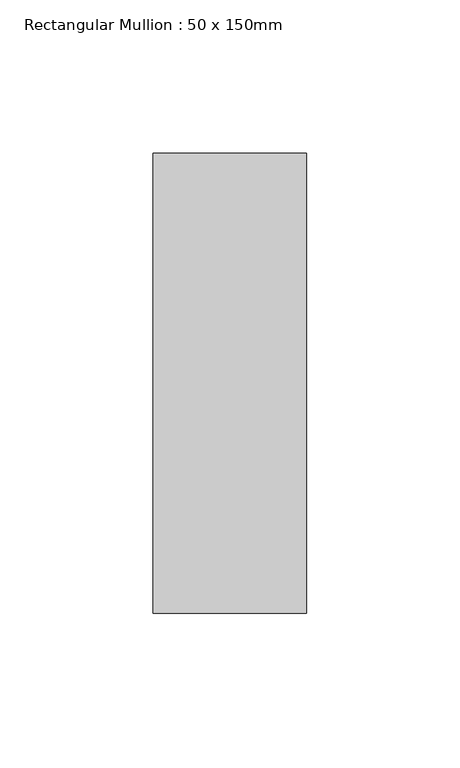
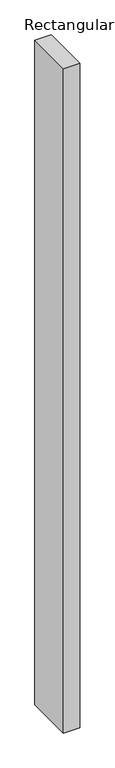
"""IFC4 building model written with IfcOpenShell, lengths in millimetres: member geometry, Rectangular Mullion : 50 x 150mm."""

import ifcopenshell
import ifcopenshell.guid

model = None  # the IFC model being written
_history = None  # IfcOwnerHistory: only IFC2X3 demands one
_inside = {}  # id of a spatial element -> (the spatial element, [elements in it])
_under = {}  # id of a project, library or spatial element -> (it, [spatial elements below it])
_declared = {}  # id of a project -> (the project, [libraries it declares])
_typed = {}  # id of a type object -> (the type object, [elements of that type])
_made_of = {}  # id of a material, layer set ... -> (it, [elements and type objects made of it])


def new_model(schema):
    """Start an empty IFC model of exactly this schema.

    Asked for "IFC4X3", IfcOpenShell would pick the latest addendum, in which some entities
    have other attributes; the version numbers below select the first issue.
    IFC2X3 requires an IfcOwnerHistory on every rooted entity: one is made here for all.
    """
    global model, _history
    if schema == "IFC4X3":
        model = ifcopenshell.file(schema_version=(4, 3, 0, 0))
    else:
        model = ifcopenshell.file(schema=schema)
    _inside.clear()
    _under.clear()
    _declared.clear()
    _typed.clear()
    _made_of.clear()
    _history = None
    if model.schema == "IFC2X3":
        org = make("IfcOrganization", Name="unknown")
        user = make(
            "IfcPersonAndOrganization",
            ThePerson=make("IfcPerson", FamilyName="unknown"),
            TheOrganization=org,
        )
        app = make(
            "IfcApplication",
            ApplicationDeveloper=org,
            Version="unknown",
            ApplicationFullName="unknown",
            ApplicationIdentifier="unknown",
        )
        _history = make(
            "IfcOwnerHistory",
            OwningUser=user,
            OwningApplication=app,
            ChangeAction="ADDED",
            CreationDate=0,
        )
    return model


def make(cls, **values):
    """One entity of the class cls with the attributes given. An attribute that is None is left unset."""
    return model.create_entity(
        cls, **{name: value for name, value in values.items() if value is not None}
    )


def rooted(cls, **values):
    """An entity with a GlobalId (a new one), such as an element, a storey or a relation."""
    return make(cls, GlobalId=ifcopenshell.guid.new(), OwnerHistory=_history, **values)


def si_unit(unit_type, name, prefix=None):
    """IfcSIUnit, for example si_unit("LENGTHUNIT", "METRE", prefix="MILLI")."""
    return make("IfcSIUnit", UnitType=unit_type, Prefix=prefix, Name=name)


def assignment(units):
    """IfcUnitAssignment: the units of a project."""
    return None if units is None else make("IfcUnitAssignment", Units=units)


def point(xyz):
    """IfcCartesianPoint."""
    return None if xyz is None else make("IfcCartesianPoint", Coordinates=xyz)


def direction(xyz):
    """IfcDirection."""
    return None if xyz is None else make("IfcDirection", DirectionRatios=xyz)


def frame(location, z_axis=None, x_axis=None):
    """IfcAxis2Placement3D, a coordinate frame: its origin and axes. An axis left out is left unset."""
    return make(
        "IfcAxis2Placement3D",
        Location=point(location),
        Axis=direction(z_axis),
        RefDirection=direction(x_axis),
    )


def origin():
    """The frame at (0, 0, 0) with its axes left unset."""
    return frame((0.0, 0.0, 0.0))


def place(relative_to, where):
    """IfcLocalPlacement: puts the frame where relative to a parent placement (None: the world)."""
    return make(
        "IfcLocalPlacement", PlacementRelTo=relative_to, RelativePlacement=where
    )


def context(
    kind, dimensions, precision=None, world=None, true_north=None, identifier=None
):
    """IfcGeometricRepresentationContext, for example the 3D "Model" context."""
    return make(
        "IfcGeometricRepresentationContext",
        ContextIdentifier=identifier,
        ContextType=kind,
        CoordinateSpaceDimension=dimensions,
        Precision=precision,
        WorldCoordinateSystem=world,
        TrueNorth=true_north,
    )


def project(units=None, contexts=None):
    """IfcProject with its units and contexts."""
    return rooted(
        "IfcProject",
        Name="project",
        RepresentationContexts=contexts,
        UnitsInContext=assignment(units),
    )


def spatial(cls, under=None, at=None, **own):
    """A site, building, storey or space (cls), placed at a placement, below another one or the project."""
    s = rooted(cls, ObjectPlacement=at, **own)
    if under is not None:
        _under.setdefault(under.id(), (under, []))[1].append(s)
    return s


def polyline(points):
    """IfcPolyline through the points."""
    return make("IfcPolyline", Points=[point(p) for p in points])


def outline(outer, holes=None, kind="AREA"):
    """IfcArbitraryClosedProfileDef: a profile drawn as a closed curve; with holes, ...WithVoids."""
    if holes is None:
        return make("IfcArbitraryClosedProfileDef", ProfileType=kind, OuterCurve=outer)
    return make(
        "IfcArbitraryProfileDefWithVoids",
        ProfileType=kind,
        OuterCurve=outer,
        InnerCurves=holes,
    )


def extrude(swept, where, along, depth):
    """IfcExtrudedAreaSolid: the profile swept, set in the frame where, extruded along a direction by depth."""
    return make(
        "IfcExtrudedAreaSolid",
        SweptArea=swept,
        Position=where,
        ExtrudedDirection=direction(along),
        Depth=depth,
    )


def shape(context_of_items, identifier, shape_type, items):
    """IfcShapeRepresentation: the items that make up one representation, for example the "Body"."""
    return make(
        "IfcShapeRepresentation",
        ContextOfItems=context_of_items,
        RepresentationIdentifier=identifier,
        RepresentationType=shape_type,
        Items=items,
    )


def source(mapping_origin, context_of_items, identifier, shape_type, items):
    """IfcRepresentationMap: a shape defined once, which mapped items show again and again."""
    return make(
        "IfcRepresentationMap",
        MappingOrigin=mapping_origin,
        MappedRepresentation=shape(context_of_items, identifier, shape_type, items),
    )


def transform(
    local_origin,
    x_axis=None,
    y_axis=None,
    z_axis=None,
    scale=None,
    scale2=None,
    scale3=None,
    uniform=True,
):
    """IfcCartesianTransformationOperator3D, or its non-uniform kind. x_axis, y_axis, z_axis: its Axis1, 2, 3."""
    if uniform:
        return make(
            "IfcCartesianTransformationOperator3D",
            Axis1=direction(x_axis),
            Axis2=direction(y_axis),
            LocalOrigin=point(local_origin),
            Scale=scale,
            Axis3=direction(z_axis),
        )
    return make(
        "IfcCartesianTransformationOperator3DnonUniform",
        Axis1=direction(x_axis),
        Axis2=direction(y_axis),
        LocalOrigin=point(local_origin),
        Scale=scale,
        Axis3=direction(z_axis),
        Scale2=scale2,
        Scale3=scale3,
    )


def mapped(mapping_source, mapping_target):
    """IfcMappedItem: shows the shape of a source again, moved by a transform."""
    return make(
        "IfcMappedItem", MappingSource=mapping_source, MappingTarget=mapping_target
    )


def made_of(thing, what):
    """Note that an element or type object is made of a material, layer set ...; save() writes the relation."""
    if what is not None:
        _made_of.setdefault(what.id(), (what, []))[1].append(thing)
    return thing


def element(
    cls,
    number,
    at=None,
    inside=None,
    cuts=None,
    type_object=None,
    material=None,
    context=None,
    identifier="Body",
    shape_type=None,
    held_by="IfcProductDefinitionShape",
    body=None,
    shapes=None,
    **own,
):
    """One element of the class cls, such as IfcWall. Its Tag is "e" and its number.

    at: its placement. inside: the storey or other place that contains it. cuts: it is an
    opening in that element (IfcRelVoidsElement). A single representation is given by context,
    identifier, shape_type and body (its items); several are given by shapes. held_by: the class
    of the entity that holds the representations. save() writes the other relations.
    """
    e = rooted(cls, Tag="e%d" % number, ObjectPlacement=at, **own)
    if body is not None:
        shapes = [shape(context, identifier, shape_type, body)]
    if shapes is not None:
        e.Representation = make(held_by, Representations=shapes)
    if inside is not None:
        _inside.setdefault(inside.id(), (inside, []))[1].append(e)
    if cuts is not None:
        rooted(
            "IfcRelVoidsElement", RelatingBuildingElement=cuts, RelatedOpeningElement=e
        )
    if type_object is not None:
        _typed.setdefault(type_object.id(), (type_object, []))[1].append(e)
    return made_of(e, material)


def aggregate(whole, parts):
    """IfcRelAggregates: a whole, such as a stair, and the parts it consists of."""
    return rooted("IfcRelAggregates", RelatingObject=whole, RelatedObjects=parts)


def save(model, path):
    """Write the relations noted so far, then the file.

    IfcRelAggregates (storeys below a building ...), IfcRelContainedInSpatialStructure (elements
    in a storey), IfcRelDefinesByType, IfcRelAssociatesMaterial and IfcRelDeclares: one each for
    every whole, place, type object, material and project.
    """
    for whole, parts in _under.values():
        aggregate(whole, parts)
    for where, things in _inside.values():
        rooted(
            "IfcRelContainedInSpatialStructure",
            RelatedElements=things,
            RelatingStructure=where,
        )
    for kind, things in _typed.values():
        rooted("IfcRelDefinesByType", RelatedObjects=things, RelatingType=kind)
    for what, things in _made_of.values():
        rooted("IfcRelAssociatesMaterial", RelatedObjects=things, RelatingMaterial=what)
    for by, libraries in _declared.values():
        rooted("IfcRelDeclares", RelatingContext=by, RelatedDefinitions=libraries)
    model.write(path)


def rectangular_mullion_50_x_150mm_2677f012(model_context):
    return source(origin(), model_context, "Body", "SweptSolid", [
        extrude(outline(polyline([(25.0, 75.0), (25.0, -75.0), (-25.0, -75.0), (-25.0, 75.0), (25.0, 75.0)])), frame((0.0, 0.0, -2133.6), z_axis=(0.0, 0.0, 1.0), x_axis=(1.0, 0.0, 0.0)), (0.0, 0.0, 1.0), 2133.6),
    ])


if __name__ == "__main__":
    model = new_model("IFC4")
    model_context = context("Model", 3, world=origin())
    ifc_project = project(units=[si_unit("LENGTHUNIT", "METRE", prefix="MILLI")], contexts=[model_context])
    site = spatial("IfcSite", under=ifc_project)
    building = spatial("IfcBuilding", under=site)
    placement = place(None, origin())
    rectangular_mullion_50_x_150mm_shape = rectangular_mullion_50_x_150mm_2677f012(model_context)
    element("IfcMember", 1, ObjectType="Rectangular Mullion : 50 x 150mm", at=placement, inside=building, context=model_context, shape_type="MappedRepresentation", body=[
        mapped(rectangular_mullion_50_x_150mm_shape, transform((0.0, 0.0, 0.0), x_axis=(1.0, 0.0, 0.0), y_axis=(0.0, 1.0, 0.0), z_axis=(0.0, 0.0, 1.0))),
    ])
    save(model, "model.ifc")
